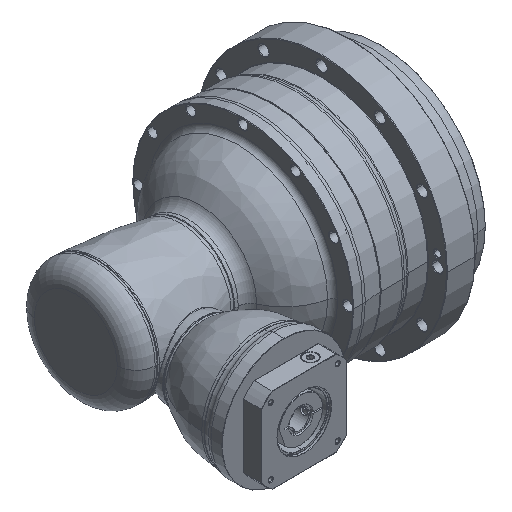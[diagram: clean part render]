
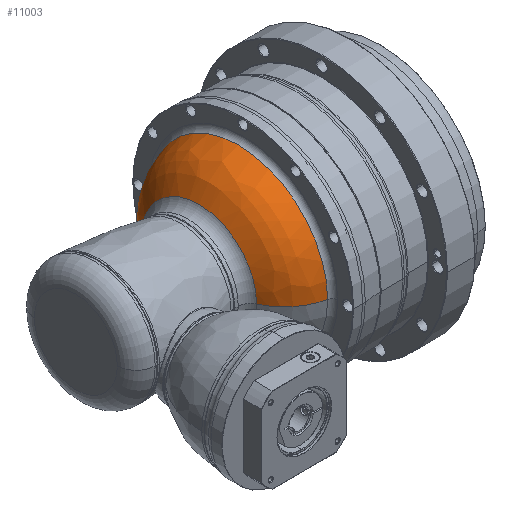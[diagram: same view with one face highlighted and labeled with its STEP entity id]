
A CAD part, isometric view. The second image highlights one B-rep face of the part: STEP entity #11003.
In plain terms, the highlighted free-form (B-spline) face has degree [3, 3] with [7, 4] control points.
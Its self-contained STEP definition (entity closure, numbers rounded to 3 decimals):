
#5635=CARTESIAN_POINT('',(-153.657,-71.093,
0.));
#5636=DIRECTION('',(0.,0.,1.));
#5637=DIRECTION('',(0.213,-0.977,0.));
#5638=AXIS2_PLACEMENT_3D('',#5635,#5636,#5637);
#5645=CARTESIAN_POINT('',(-153.657,71.093,0.));
#5646=DIRECTION('',(0.,0.,-1.));
#5647=DIRECTION('',(0.213,0.977,0.));
#5648=AXIS2_PLACEMENT_3D('',#5645,#5646,#5647);
#7116=CARTESIAN_POINT('',(-128.06,0.,0.));
#7117=DIRECTION('',(1.,0.,0.));
#7118=DIRECTION('',(0.,1.,0.));
#7119=AXIS2_PLACEMENT_3D('',#7116,#7117,#7118);
#7121=CARTESIAN_POINT('',(-44.788,0.,0.));
#7122=DIRECTION('',(-1.,0.,0.));
#7123=DIRECTION('',(0.,-1.,0.));
#7124=AXIS2_PLACEMENT_3D('',#7121,#7122,#7123);
#7752=CARTESIAN_POINT('',(-128.06,-188.331,
0.));
#7753=CARTESIAN_POINT('',(-128.06,188.331,
0.));
#7754=VERTEX_POINT('',#7752);
#7755=VERTEX_POINT('',#7753);
#7760=CARTESIAN_POINT('',(-44.788,121.564,
0.));
#7761=CARTESIAN_POINT('',(-44.788,-121.564,
0.));
#7762=VERTEX_POINT('',#7760);
#7763=VERTEX_POINT('',#7761);
#10968=CARTESIAN_POINT('',(-130.225,188.41,
-11.854));
#10969=CARTESIAN_POINT('',(-91.104,180.637,
-11.365));
#10970=CARTESIAN_POINT('',(-59.983,155.733,
-9.798));
#10971=CARTESIAN_POINT('',(-43.876,119.313,
-7.507));
#10972=CARTESIAN_POINT('',(-130.225,195.705,
104.094));
#10973=CARTESIAN_POINT('',(-91.104,187.63,
99.799));
#10974=CARTESIAN_POINT('',(-59.983,161.763,
86.04));
#10975=CARTESIAN_POINT('',(-43.876,123.933,
65.919));
#10976=CARTESIAN_POINT('',(-130.225,116.177,
188.783));
#10977=CARTESIAN_POINT('',(-91.104,111.383,
180.994));
#10978=CARTESIAN_POINT('',(-59.983,96.028,
156.041));
#10979=CARTESIAN_POINT('',(-43.876,73.57,
119.549));
#10980=CARTESIAN_POINT('',(-130.225,0.,
188.783));
#10981=CARTESIAN_POINT('',(-91.104,0.,
180.994));
#10982=CARTESIAN_POINT('',(-59.983,0.,
156.041));
#10983=CARTESIAN_POINT('',(-43.876,0.,
119.549));
#10984=CARTESIAN_POINT('',(-130.225,-116.177,
188.783));
#10985=CARTESIAN_POINT('',(-91.104,-111.383,
180.994));
#10986=CARTESIAN_POINT('',(-59.983,-96.028,
156.041));
#10987=CARTESIAN_POINT('',(-43.876,-73.57,
119.549));
#10988=CARTESIAN_POINT('',(-130.225,-195.705,
104.094));
#10989=CARTESIAN_POINT('',(-91.104,-187.63,
99.799));
#10990=CARTESIAN_POINT('',(-59.983,-161.763,
86.04));
#10991=CARTESIAN_POINT('',(-43.876,-123.933,
65.919));
#10992=CARTESIAN_POINT('',(-130.225,-188.41,
-11.854));
#10993=CARTESIAN_POINT('',(-91.104,-180.637,
-11.365));
#10994=CARTESIAN_POINT('',(-59.983,-155.733,
-9.798));
#10995=CARTESIAN_POINT('',(-43.876,-119.313,
-7.507));
#10996=(BOUNDED_SURFACE()B_SPLINE_SURFACE(3,3,((#10968,#10969,#10970,#10971),(
#10972,#10973,#10974,#10975),(#10976,#10977,#10978,#10979),(#10980,#10981,
#10982,#10983),(#10984,#10985,#10986,#10987),(#10988,#10989,#10990,#10991),(
#10992,#10993,#10994,#10995)),.UNSPECIFIED.,.F.,.F.,.F.)B_SPLINE_SURFACE_WITH_KNOTS((4,3,4),(4,4),(0.,1.,2.),(0.,1.),.UNSPECIFIED.)GEOMETRIC_REPRESENTATION_ITEM()RATIONAL_B_SPLINE_SURFACE(((1.258,1.164,
1.164,1.258),(0.994,0.919,
0.919,0.994),(0.994,0.919,
0.919,0.994),(1.258,1.164,
1.164,1.258),(0.994,0.919,
0.919,0.994),(0.994,0.919,
0.919,0.994),(1.258,1.164,
1.164,1.258)))REPRESENTATION_ITEM('')SURFACE());
#10997=ORIENTED_EDGE('',*,*,#10962,.F.);
#10998=ORIENTED_EDGE('',*,*,#8748,.T.);
#10999=ORIENTED_EDGE('',*,*,#8694,.F.);
#11000=ORIENTED_EDGE('',*,*,#8745,.F.);
#11001=EDGE_LOOP('',(#10997,#10998,#10999,#11000));
#11002=FACE_OUTER_BOUND('',#11001,.F.);
#11003=ADVANCED_FACE('',(#11002),#10996,.T.);
#5639=CIRCLE('',#5638,120.);
#5649=CIRCLE('',#5648,120.);
#7120=CIRCLE('',#7119,188.331);
#7125=CIRCLE('',#7124,121.564);
#8694=EDGE_CURVE('',#7763,#7762,#7125,.T.);
#8745=EDGE_CURVE('',#7754,#7763,#5639,.T.);
#8748=EDGE_CURVE('',#7755,#7762,#5649,.T.);
#10962=EDGE_CURVE('',#7755,#7754,#7120,.T.);
